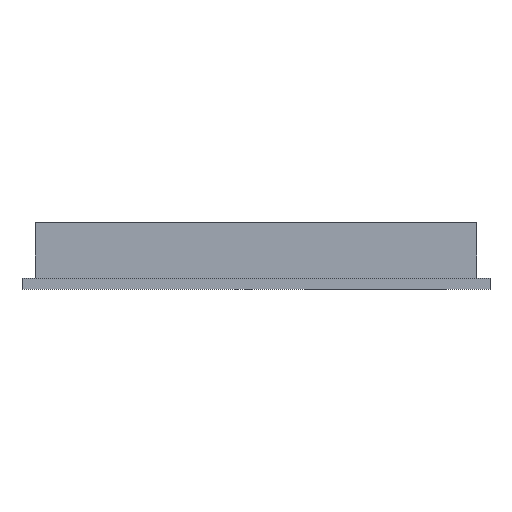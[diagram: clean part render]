
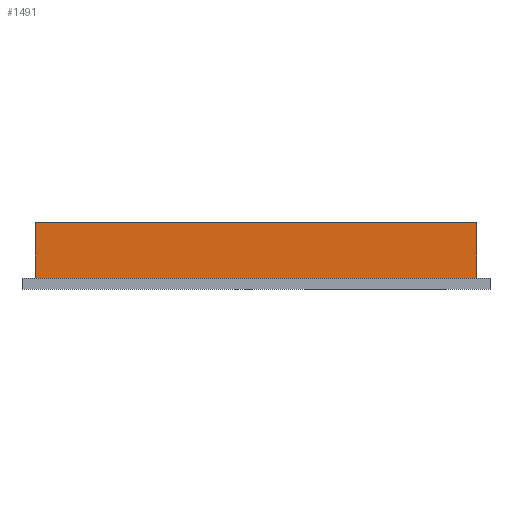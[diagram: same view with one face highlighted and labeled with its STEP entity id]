
A CAD part, front view. The second image highlights one B-rep face of the part: STEP entity #1491.
In plain terms, the highlighted planar face has unit normal (0, -1, 0).
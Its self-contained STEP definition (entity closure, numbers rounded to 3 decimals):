
#126 = PLANE('',#127);
#127 = AXIS2_PLACEMENT_3D('',#128,#129,#130);
#128 = CARTESIAN_POINT('',(0.,0.,3.));
#129 = DIRECTION('',(0.,0.,1.));
#130 = DIRECTION('',(1.,0.,0.));
#266 = VERTEX_POINT('',#267);
#267 = CARTESIAN_POINT('',(3.55,3.55,3.));
#283 = PLANE('',#284);
#284 = AXIS2_PLACEMENT_3D('',#285,#286,#287);
#285 = CARTESIAN_POINT('',(3.55,3.55,3.));
#286 = DIRECTION('',(1.,0.,0.));
#287 = DIRECTION('',(0.,0.,1.));
#324 = VERTEX_POINT('',#325);
#325 = CARTESIAN_POINT('',(122.45,3.55,3.));
#339 = PLANE('',#340);
#340 = AXIS2_PLACEMENT_3D('',#341,#342,#343);
#341 = CARTESIAN_POINT('',(122.45,3.55,3.));
#342 = DIRECTION('',(1.,0.,0.));
#343 = DIRECTION('',(0.,0.,1.));
#351 = EDGE_CURVE('',#324,#266,#352,.T.);
#352 = SURFACE_CURVE('',#353,(#357,#364),.PCURVE_S1.);
#353 = LINE('',#354,#355);
#354 = CARTESIAN_POINT('',(122.45,3.55,3.));
#355 = VECTOR('',#356,1.);
#356 = DIRECTION('',(-1.,0.,0.));
#357 = PCURVE('',#126,#358);
#358 = DEFINITIONAL_REPRESENTATION('',(#359),#363);
#359 = LINE('',#360,#361);
#360 = CARTESIAN_POINT('',(122.45,3.55));
#361 = VECTOR('',#362,1.);
#362 = DIRECTION('',(-1.,0.));
#363 = ( GEOMETRIC_REPRESENTATION_CONTEXT(2) 
PARAMETRIC_REPRESENTATION_CONTEXT() REPRESENTATION_CONTEXT('2D SPACE',''
  ) );
#364 = PCURVE('',#365,#370);
#365 = PLANE('',#366);
#366 = AXIS2_PLACEMENT_3D('',#367,#368,#369);
#367 = CARTESIAN_POINT('',(3.55,3.55,3.));
#368 = DIRECTION('',(0.,1.,0.));
#369 = DIRECTION('',(0.,0.,1.));
#370 = DEFINITIONAL_REPRESENTATION('',(#371),#375);
#371 = LINE('',#372,#373);
#372 = CARTESIAN_POINT('',(0.,118.9));
#373 = VECTOR('',#374,1.);
#374 = DIRECTION('',(0.,-1.));
#375 = ( GEOMETRIC_REPRESENTATION_CONTEXT(2) 
PARAMETRIC_REPRESENTATION_CONTEXT() REPRESENTATION_CONTEXT('2D SPACE',''
  ) );
#1189 = EDGE_CURVE('',#266,#1190,#1192,.T.);
#1190 = VERTEX_POINT('',#1191);
#1191 = CARTESIAN_POINT('',(3.55,3.55,18.));
#1192 = SURFACE_CURVE('',#1193,(#1197,#1204),.PCURVE_S1.);
#1193 = LINE('',#1194,#1195);
#1194 = CARTESIAN_POINT('',(3.55,3.55,3.));
#1195 = VECTOR('',#1196,1.);
#1196 = DIRECTION('',(0.,0.,1.));
#1197 = PCURVE('',#283,#1198);
#1198 = DEFINITIONAL_REPRESENTATION('',(#1199),#1203);
#1199 = LINE('',#1200,#1201);
#1200 = CARTESIAN_POINT('',(0.,0.));
#1201 = VECTOR('',#1202,1.);
#1202 = DIRECTION('',(1.,0.));
#1203 = ( GEOMETRIC_REPRESENTATION_CONTEXT(2) 
PARAMETRIC_REPRESENTATION_CONTEXT() REPRESENTATION_CONTEXT('2D SPACE',''
  ) );
#1204 = PCURVE('',#365,#1205);
#1205 = DEFINITIONAL_REPRESENTATION('',(#1206),#1210);
#1206 = LINE('',#1207,#1208);
#1207 = CARTESIAN_POINT('',(0.,0.));
#1208 = VECTOR('',#1209,1.);
#1209 = DIRECTION('',(1.,0.));
#1210 = ( GEOMETRIC_REPRESENTATION_CONTEXT(2) 
PARAMETRIC_REPRESENTATION_CONTEXT() REPRESENTATION_CONTEXT('2D SPACE',''
  ) );
#1250 = PLANE('',#1251);
#1251 = AXIS2_PLACEMENT_3D('',#1252,#1253,#1254);
#1252 = CARTESIAN_POINT('',(3.55,3.55,18.));
#1253 = DIRECTION('',(0.,0.,1.));
#1254 = DIRECTION('',(1.,0.,0.));
#1384 = EDGE_CURVE('',#324,#1385,#1387,.T.);
#1385 = VERTEX_POINT('',#1386);
#1386 = CARTESIAN_POINT('',(122.45,3.55,18.));
#1387 = SURFACE_CURVE('',#1388,(#1392,#1399),.PCURVE_S1.);
#1388 = LINE('',#1389,#1390);
#1389 = CARTESIAN_POINT('',(122.45,3.55,3.));
#1390 = VECTOR('',#1391,1.);
#1391 = DIRECTION('',(0.,0.,1.));
#1392 = PCURVE('',#339,#1393);
#1393 = DEFINITIONAL_REPRESENTATION('',(#1394),#1398);
#1394 = LINE('',#1395,#1396);
#1395 = CARTESIAN_POINT('',(0.,0.));
#1396 = VECTOR('',#1397,1.);
#1397 = DIRECTION('',(1.,0.));
#1398 = ( GEOMETRIC_REPRESENTATION_CONTEXT(2) 
PARAMETRIC_REPRESENTATION_CONTEXT() REPRESENTATION_CONTEXT('2D SPACE',''
  ) );
#1399 = PCURVE('',#365,#1400);
#1400 = DEFINITIONAL_REPRESENTATION('',(#1401),#1405);
#1401 = LINE('',#1402,#1403);
#1402 = CARTESIAN_POINT('',(0.,118.9));
#1403 = VECTOR('',#1404,1.);
#1404 = DIRECTION('',(1.,0.));
#1405 = ( GEOMETRIC_REPRESENTATION_CONTEXT(2) 
PARAMETRIC_REPRESENTATION_CONTEXT() REPRESENTATION_CONTEXT('2D SPACE',''
  ) );
#1491 = ADVANCED_FACE('',(#1492),#365,.F.);
#1492 = FACE_BOUND('',#1493,.F.);
#1493 = EDGE_LOOP('',(#1494,#1495,#1516,#1517));
#1494 = ORIENTED_EDGE('',*,*,#1189,.T.);
#1495 = ORIENTED_EDGE('',*,*,#1496,.F.);
#1496 = EDGE_CURVE('',#1385,#1190,#1497,.T.);
#1497 = SURFACE_CURVE('',#1498,(#1502,#1509),.PCURVE_S1.);
#1498 = LINE('',#1499,#1500);
#1499 = CARTESIAN_POINT('',(122.45,3.55,18.));
#1500 = VECTOR('',#1501,1.);
#1501 = DIRECTION('',(-1.,0.,0.));
#1502 = PCURVE('',#365,#1503);
#1503 = DEFINITIONAL_REPRESENTATION('',(#1504),#1508);
#1504 = LINE('',#1505,#1506);
#1505 = CARTESIAN_POINT('',(15.,118.9));
#1506 = VECTOR('',#1507,1.);
#1507 = DIRECTION('',(0.,-1.));
#1508 = ( GEOMETRIC_REPRESENTATION_CONTEXT(2) 
PARAMETRIC_REPRESENTATION_CONTEXT() REPRESENTATION_CONTEXT('2D SPACE',''
  ) );
#1509 = PCURVE('',#1250,#1510);
#1510 = DEFINITIONAL_REPRESENTATION('',(#1511),#1515);
#1511 = LINE('',#1512,#1513);
#1512 = CARTESIAN_POINT('',(118.9,0.));
#1513 = VECTOR('',#1514,1.);
#1514 = DIRECTION('',(-1.,0.));
#1515 = ( GEOMETRIC_REPRESENTATION_CONTEXT(2) 
PARAMETRIC_REPRESENTATION_CONTEXT() REPRESENTATION_CONTEXT('2D SPACE',''
  ) );
#1516 = ORIENTED_EDGE('',*,*,#1384,.F.);
#1517 = ORIENTED_EDGE('',*,*,#351,.T.);
